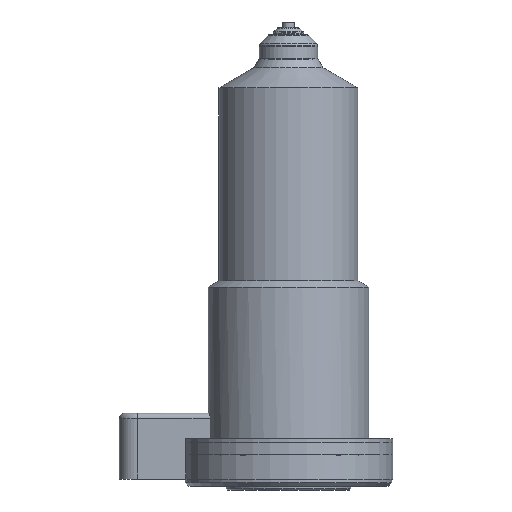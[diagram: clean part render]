
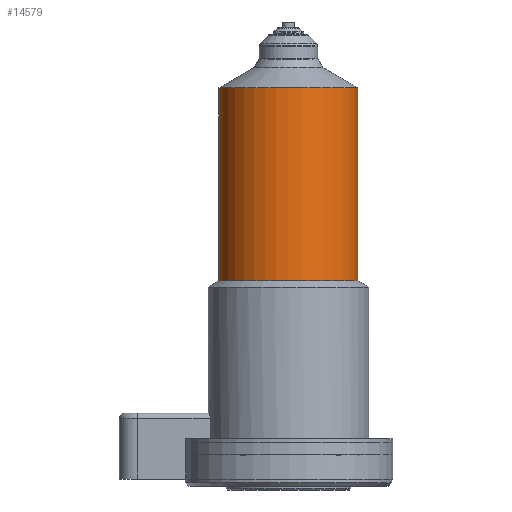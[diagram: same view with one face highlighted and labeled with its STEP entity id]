
A CAD part, front view. The second image highlights one B-rep face of the part: STEP entity #14579.
In plain terms, the highlighted cylindrical face has radius 38 mm (diameter 76 mm), a partial arc.
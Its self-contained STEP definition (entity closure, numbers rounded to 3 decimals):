
#36 = VERTEX_POINT ( 'NONE', #18995 ) ;
#173 = VERTEX_POINT ( 'NONE', #18991 ) ;
#208 = VERTEX_POINT ( 'NONE', #18824 ) ;
#439 = VERTEX_POINT ( 'NONE', #18951 ) ;
#3125 = CARTESIAN_POINT ( 'NONE',  ( 0., 0., 114.464 ) ) ;
#3174 = DIRECTION ( 'NONE',  ( 0., 0., -1. ) ) ;
#3408 = DIRECTION ( 'NONE',  ( -1., 0., 0. ) ) ;
#3873 = AXIS2_PLACEMENT_3D ( 'NONE', #17450, #17452, #17454 ) ;
#4262 = DIRECTION ( 'NONE',  ( 0., 0., 1. ) ) ;
#4263 = DIRECTION ( 'NONE',  ( 1., 0., 0. ) ) ;
#4265 = CARTESIAN_POINT ( 'NONE',  ( 0., 0., 219.965 ) ) ;
#4402 = DIRECTION ( 'NONE',  ( 0., 0., -1. ) ) ;
#4407 = CARTESIAN_POINT ( 'NONE',  ( -38., 0., 24.409 ) ) ;
#4475 = DIRECTION ( 'NONE',  ( 0., 0., -1. ) ) ;
#4476 = CARTESIAN_POINT ( 'NONE',  ( 38., 0., 24.409 ) ) ;
#4973 = FACE_OUTER_BOUND ( 'NONE', #19781, .T. ) ;
#4979 = CYLINDRICAL_SURFACE ( 'NONE', #3873, 38. ) ;
#5068 = CIRCLE ( 'NONE', #7631, 38. ) ;
#7498 = AXIS2_PLACEMENT_3D ( 'NONE', #4265, #4262, #4263 ) ;
#7631 = AXIS2_PLACEMENT_3D ( 'NONE', #3125, #3174, #3408 ) ;
#10264 = ORIENTED_EDGE ( 'NONE', *, *, #12064, .F. ) ;
#10360 = ORIENTED_EDGE ( 'NONE', *, *, #12276, .F. ) ;
#10362 = ORIENTED_EDGE ( 'NONE', *, *, #12085, .T. ) ;
#10364 = ORIENTED_EDGE ( 'NONE', *, *, #12114, .F. ) ;
#11775 = LINE ( 'NONE', #4476, #11777 ) ;
#11777 = VECTOR ( 'NONE', #4475, 1000. ) ;
#11805 = LINE ( 'NONE', #4407, #11806 ) ;
#11806 = VECTOR ( 'NONE', #4402, 1000. ) ;
#11842 = CIRCLE ( 'NONE', #7498, 38. ) ;
#12064 = EDGE_CURVE ( 'NONE', #36, #439, #11775, .T. ) ;
#12085 = EDGE_CURVE ( 'NONE', #173, #208, #11805, .T. ) ;
#12114 = EDGE_CURVE ( 'NONE', #173, #36, #11842, .T. ) ;
#12276 = EDGE_CURVE ( 'NONE', #439, #208, #5068, .T. ) ;
#14579 = ADVANCED_FACE ( 'NONE', ( #4973 ), #4979, .T. ) ;
#17450 = CARTESIAN_POINT ( 'NONE',  ( 0., 0., 24.409 ) ) ;
#17452 = DIRECTION ( 'NONE',  ( 0., 0., -1. ) ) ;
#17454 = DIRECTION ( 'NONE',  ( -1., 0., 0. ) ) ;
#18824 = CARTESIAN_POINT ( 'NONE',  ( -38., 0., 114.464 ) ) ;
#18951 = CARTESIAN_POINT ( 'NONE',  ( 38., 0., 114.464 ) ) ;
#18991 = CARTESIAN_POINT ( 'NONE',  ( -38., 0., 219.965 ) ) ;
#18995 = CARTESIAN_POINT ( 'NONE',  ( 38., 0., 219.965 ) ) ;
#19781 = EDGE_LOOP ( 'NONE', ( #10264, #10364, #10362, #10360 ) ) ;
